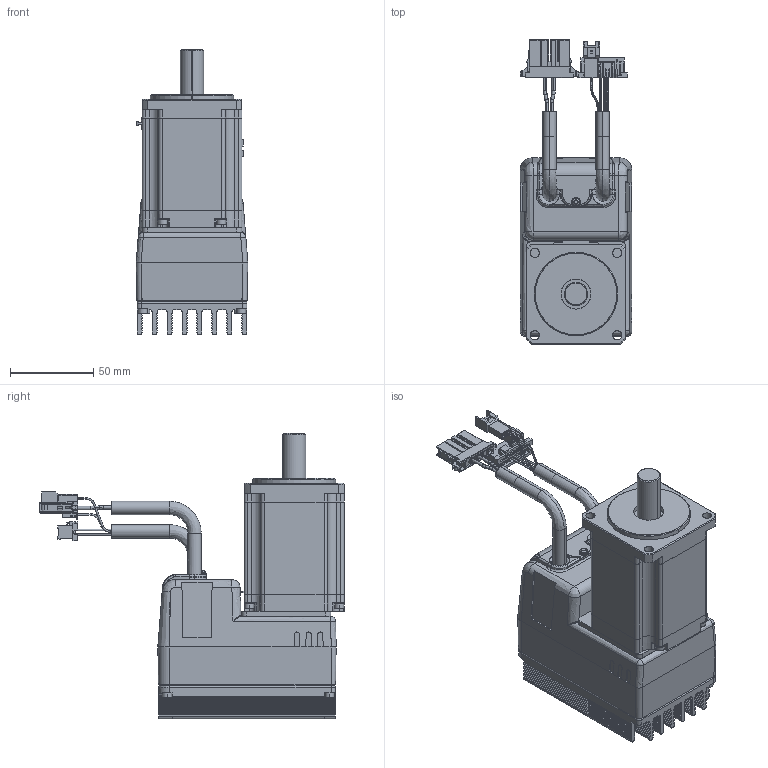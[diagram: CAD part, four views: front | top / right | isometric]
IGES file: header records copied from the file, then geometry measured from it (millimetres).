
Start section: SolidWorks IGES file using analytic representation for surfaces
Global section: file name: C:\3D---CAD_liuWorks\CM＊\CM2\ホームページー用向け\CM2-□-60A40C1.IGS; native system: SolidWorks 2012; preprocessor: SolidWorks 2012; author: 3DCAD; date: 140225.141535; units: millimetre
Bounding box: 67 x 182.6 x 171.4 mm (x, y, z)
Surface area: 125522.7 mm2 (no closed solid volume)
Topology: 0 solids, 0 shells, 2081 faces, 15242 edges, 15232 vertices
Faces by surface type: bspline 1625, revolution 456
